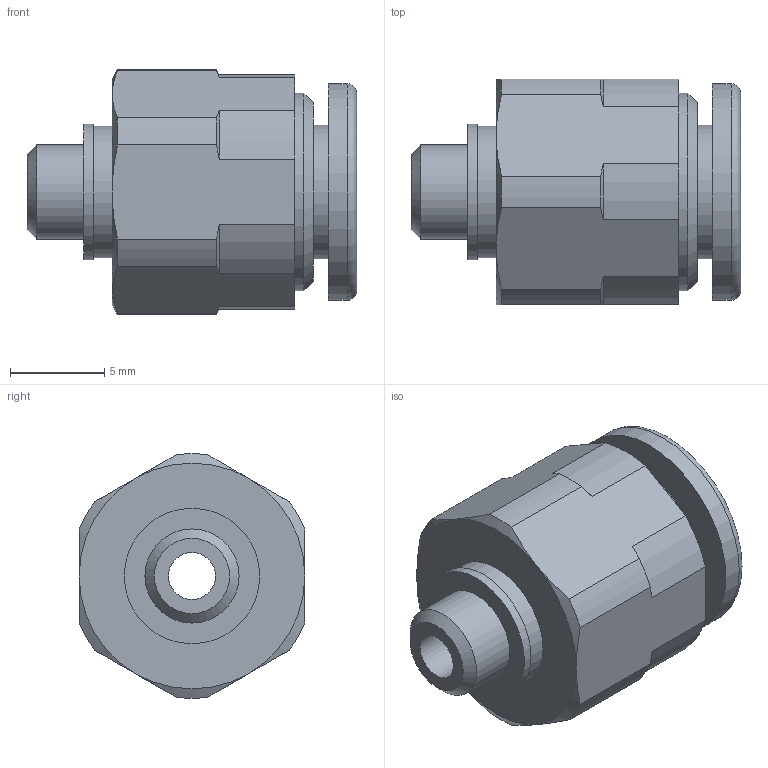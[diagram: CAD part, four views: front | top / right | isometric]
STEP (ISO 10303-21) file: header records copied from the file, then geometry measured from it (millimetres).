
FILE_DESCRIPTION(/* description */ (''),/* implementation_level */ '2;1');
FILE_NAME(/* name */ 'E:\2013年度版　3D-DATA\【02】 TOUCH CONNECTOR FIVE SUS\[01] MALE CONNECTOR\[04] FS6-M5M FS6-M5MW.stp',/* time_stamp */ '2013-08-06T16:46:52+09:00',/* author */ ('takahashi-pc2'),/* organization */ (''),/* preprocessor_version */ 'ST-DEVELOPER v15.2',/* originating_system */ 'Autodesk Inventor 2014',/* authorisation */ '');
FILE_SCHEMA (('AUTOMOTIVE_DESIGN { 1 0 10303 214 3 1 1 }'));
Length unit declared in the file: millimetre
Products named in the file (1): [04] FS6-M5M FS6-M5MW
Bounding box: 17.5 x 12 x 12.99 mm (x, y, z)
Volume: 1180.7 mm3; surface area: 1184.4 mm2
Topology: 1 solids, 1 shells, 50 faces, 114 edges, 73 vertices
Faces by surface type: cylinder 20, plane 15, cone 14, torus 1
Full cylindrical faces by diameter (mm): 2.5 x1, 5 x1, 6 x1, 7 x1, 7.1 x1, 7.2 x1, 10.5 x1, 11.5 x1
Entity records: 1361 total; most frequent: CARTESIAN_POINT 275, DIRECTION 230, ORIENTED_EDGE 206, EDGE_CURVE 103, AXIS2_PLACEMENT_3D 100, VERTEX_POINT 73, EDGE_LOOP 70, ADVANCED_FACE 50
